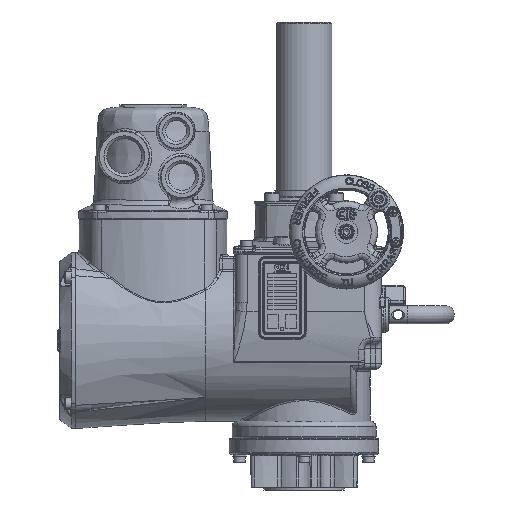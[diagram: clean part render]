
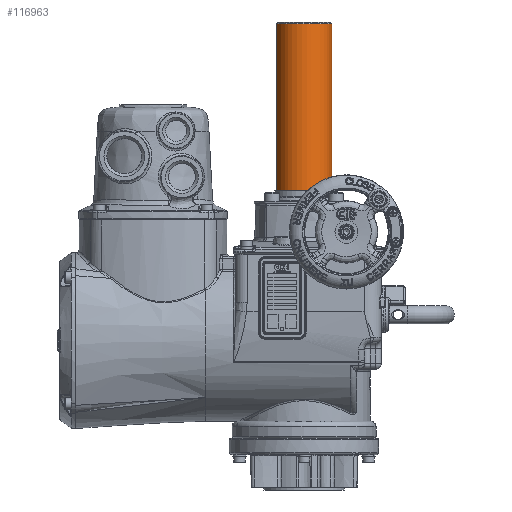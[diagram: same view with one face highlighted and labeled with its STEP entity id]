
A CAD part, front view. The second image highlights one B-rep face of the part: STEP entity #116963.
In plain terms, the highlighted cylindrical face has radius 24 mm (diameter 48 mm), a full revolution.
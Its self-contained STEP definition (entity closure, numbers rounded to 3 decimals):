
#17137=CYLINDRICAL_SURFACE('',#122712,24.);
#23248=ORIENTED_EDGE('',*,*,#44757,.T.);
#23249=ORIENTED_EDGE('',*,*,#44752,.T.);
#44752=EDGE_CURVE('',#55836,#55836,#62304,.T.);
#44757=EDGE_CURVE('',#55841,#55841,#62309,.T.);
#55836=VERTEX_POINT('',#167906);
#55841=VERTEX_POINT('',#167919);
#62304=CIRCLE('',#122705,24.);
#62309=CIRCLE('',#122713,24.);
#65664=EDGE_LOOP('',(#23248));
#65665=EDGE_LOOP('',(#23249));
#71681=FACE_BOUND('',#65664,.T.);
#71682=FACE_BOUND('',#65665,.T.);
#116963=ADVANCED_FACE('',(#71681,#71682),#17137,.T.);
#122705=AXIS2_PLACEMENT_3D('',#167905,#131926,#131927);
#122712=AXIS2_PLACEMENT_3D('',#167917,#131940,#131941);
#122713=AXIS2_PLACEMENT_3D('',#167918,#131942,#131943);
#131926=DIRECTION('',(0.,0.,1.));
#131927=DIRECTION('',(-0.707,0.707,0.));
#131940=DIRECTION('',(0.,0.,-1.));
#131941=DIRECTION('',(0.707,-0.707,0.));
#131942=DIRECTION('',(0.,0.,-1.));
#131943=DIRECTION('',(-0.707,0.707,0.));
#167905=CARTESIAN_POINT('',(0.,0.,
107.5));
#167906=CARTESIAN_POINT('',(-16.971,16.971,107.5));
#167917=CARTESIAN_POINT('',(0.,0.,
252.5));
#167918=CARTESIAN_POINT('',(0.,0.,
252.5));
#167919=CARTESIAN_POINT('',(-16.971,16.971,252.5));
